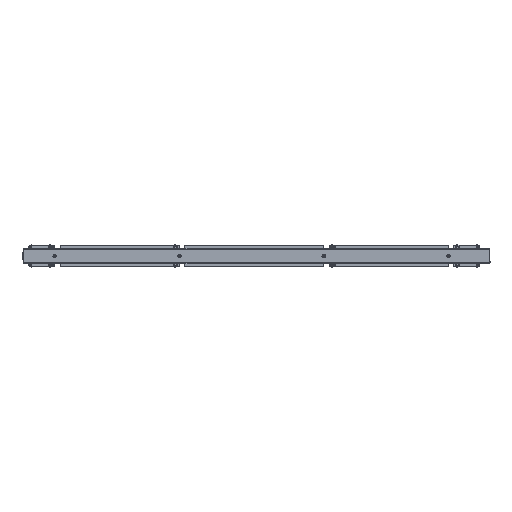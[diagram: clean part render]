
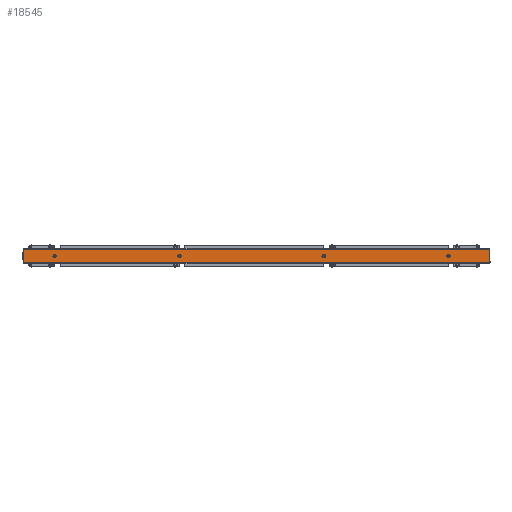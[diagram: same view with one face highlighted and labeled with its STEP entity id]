
A CAD part, left-side view. The second image highlights one B-rep face of the part: STEP entity #18545.
In plain terms, the highlighted planar face has unit normal (-1, 0, 0) as drawn and (0, 0, 1) by its records, which use the part's own axes.
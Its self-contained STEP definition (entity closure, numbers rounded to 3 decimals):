
#87 = LINE ( 'NONE', #17951, #3346 ) ;
#232 = CARTESIAN_POINT ( 'NONE',  ( 0., 56., 1.5 ) ) ;
#322 = CARTESIAN_POINT ( 'NONE',  ( 162.25, 28., 1.5 ) ) ;
#325 = DIRECTION ( 'NONE',  ( 0., 0., -1. ) ) ;
#428 = FACE_BOUND ( 'NONE', #18055, .T. ) ;
#432 = ORIENTED_EDGE ( 'NONE', *, *, #4720, .T. ) ;
#525 = FACE_OUTER_BOUND ( 'NONE', #2618, .T. ) ;
#588 = AXIS2_PLACEMENT_3D ( 'NONE', #11102, #1818, #12469 ) ;
#617 = CARTESIAN_POINT ( 'NONE',  ( 1658., 28., 1.5 ) ) ;
#919 = CARTESIAN_POINT ( 'NONE',  ( 0., 2.5, 1.5 ) ) ;
#1145 = CIRCLE ( 'NONE', #15807, 4.25 ) ;
#1233 = LINE ( 'NONE', #1436, #14915 ) ;
#1436 = CARTESIAN_POINT ( 'NONE',  ( 2.5, 56., 1.5 ) ) ;
#1818 = DIRECTION ( 'NONE',  ( 0., 0., 1. ) ) ;
#1917 = VERTEX_POINT ( 'NONE', #19110 ) ;
#2043 = CARTESIAN_POINT ( 'NONE',  ( 1653.75, 28., 1.5 ) ) ;
#2045 = DIRECTION ( 'NONE',  ( 1., 0., 0. ) ) ;
#2063 = ORIENTED_EDGE ( 'NONE', *, *, #18873, .F. ) ;
#2240 = ORIENTED_EDGE ( 'NONE', *, *, #7287, .T. ) ;
#2241 = DIRECTION ( 'NONE',  ( 0., 1., 0. ) ) ;
#2253 = EDGE_CURVE ( 'NONE', #5928, #12168, #16884, .T. ) ;
#2398 = LINE ( 'NONE', #919, #8243 ) ;
#2499 = CARTESIAN_POINT ( 'NONE',  ( 1183., 28., 1.5 ) ) ;
#2618 = EDGE_LOOP ( 'NONE', ( #432, #5036, #2240, #14565 ) ) ;
#2638 = CARTESIAN_POINT ( 'NONE',  ( 633., 28., 1.5 ) ) ;
#2997 = DIRECTION ( 'NONE',  ( 0., -1., 0. ) ) ;
#3346 = VECTOR ( 'NONE', #2241, 1000. ) ;
#3527 = AXIS2_PLACEMENT_3D ( 'NONE', #18528, #9593, #6533 ) ;
#3631 = VERTEX_POINT ( 'NONE', #322 ) ;
#3716 = CIRCLE ( 'NONE', #588, 4.25 ) ;
#4235 = AXIS2_PLACEMENT_3D ( 'NONE', #4876, #9933, #14420 ) ;
#4309 = CARTESIAN_POINT ( 'NONE',  ( 1178.75, 28., 1.5 ) ) ;
#4508 = DIRECTION ( 'NONE',  ( 1., 0., 0. ) ) ;
#4720 = EDGE_CURVE ( 'NONE', #17413, #10928, #2398, .T. ) ;
#4755 = AXIS2_PLACEMENT_3D ( 'NONE', #6624, #13882, #2045 ) ;
#4855 = ORIENTED_EDGE ( 'NONE', *, *, #10963, .F. ) ;
#4876 = CARTESIAN_POINT ( 'NONE',  ( 1183., 28., 1.5 ) ) ;
#5036 = ORIENTED_EDGE ( 'NONE', *, *, #11182, .T. ) ;
#5095 = CARTESIAN_POINT ( 'NONE',  ( 1775.5, 2.5, 1.5 ) ) ;
#5512 = CARTESIAN_POINT ( 'NONE',  ( 2.5, 53.5, 1.5 ) ) ;
#5530 = DIRECTION ( 'NONE',  ( 0., 0., 1. ) ) ;
#5539 = CARTESIAN_POINT ( 'NONE',  ( 1662.25, 28., 1.5 ) ) ;
#5629 = VERTEX_POINT ( 'NONE', #2043 ) ;
#5774 = AXIS2_PLACEMENT_3D ( 'NONE', #617, #16820, #12559 ) ;
#5786 = DIRECTION ( 'NONE',  ( -1., 0., 0. ) ) ;
#5928 = VERTEX_POINT ( 'NONE', #17154 ) ;
#6024 = EDGE_LOOP ( 'NONE', ( #4855, #9454 ) ) ;
#6345 = CARTESIAN_POINT ( 'NONE',  ( 158., 28., 1.5 ) ) ;
#6533 = DIRECTION ( 'NONE',  ( 1., 0., 0. ) ) ;
#6624 = CARTESIAN_POINT ( 'NONE',  ( 633., 28., 1.5 ) ) ;
#6948 = EDGE_CURVE ( 'NONE', #7650, #5629, #10158, .T. ) ;
#7037 = ORIENTED_EDGE ( 'NONE', *, *, #18562, .F. ) ;
#7096 = CARTESIAN_POINT ( 'NONE',  ( 153.75, 28., 1.5 ) ) ;
#7109 = VERTEX_POINT ( 'NONE', #5512 ) ;
#7154 = CIRCLE ( 'NONE', #3527, 4.25 ) ;
#7287 = EDGE_CURVE ( 'NONE', #1917, #7109, #13242, .T. ) ;
#7650 = VERTEX_POINT ( 'NONE', #5539 ) ;
#7676 = VERTEX_POINT ( 'NONE', #7096 ) ;
#7679 = CIRCLE ( 'NONE', #13005, 4.25 ) ;
#7691 = FACE_BOUND ( 'NONE', #14200, .T. ) ;
#7997 = CIRCLE ( 'NONE', #4235, 4.25 ) ;
#8071 = FACE_BOUND ( 'NONE', #6024, .T. ) ;
#8243 = VECTOR ( 'NONE', #8386, 1000. ) ;
#8386 = DIRECTION ( 'NONE',  ( 1., 0., 0. ) ) ;
#8693 = ORIENTED_EDGE ( 'NONE', *, *, #9833, .F. ) ;
#8856 = ORIENTED_EDGE ( 'NONE', *, *, #9615, .F. ) ;
#9043 = AXIS2_PLACEMENT_3D ( 'NONE', #232, #325, #9451 ) ;
#9303 = DIRECTION ( 'NONE',  ( 0., 0., 1. ) ) ;
#9451 = DIRECTION ( 'NONE',  ( -1., 0., 0. ) ) ;
#9454 = ORIENTED_EDGE ( 'NONE', *, *, #2253, .F. ) ;
#9593 = DIRECTION ( 'NONE',  ( 0., 0., 1. ) ) ;
#9615 = EDGE_CURVE ( 'NONE', #14129, #12404, #7679, .T. ) ;
#9833 = EDGE_CURVE ( 'NONE', #12404, #14129, #7997, .T. ) ;
#9933 = DIRECTION ( 'NONE',  ( 0., 0., 1. ) ) ;
#10008 = CARTESIAN_POINT ( 'NONE',  ( 1187.25, 28., 1.5 ) ) ;
#10158 = CIRCLE ( 'NONE', #5774, 4.25 ) ;
#10176 = CARTESIAN_POINT ( 'NONE',  ( 2.5, 2.5, 1.5 ) ) ;
#10373 = DIRECTION ( 'NONE',  ( 0., 0., 1. ) ) ;
#10928 = VERTEX_POINT ( 'NONE', #5095 ) ;
#10963 = EDGE_CURVE ( 'NONE', #12168, #5928, #1145, .T. ) ;
#11102 = CARTESIAN_POINT ( 'NONE',  ( 158., 28., 1.5 ) ) ;
#11114 = EDGE_CURVE ( 'NONE', #7676, #3631, #13964, .T. ) ;
#11182 = EDGE_CURVE ( 'NONE', #10928, #1917, #87, .T. ) ;
#11499 = DIRECTION ( 'NONE',  ( 1., 0., 0. ) ) ;
#12168 = VERTEX_POINT ( 'NONE', #16121 ) ;
#12404 = VERTEX_POINT ( 'NONE', #10008 ) ;
#12469 = DIRECTION ( 'NONE',  ( 1., 0., 0. ) ) ;
#12559 = DIRECTION ( 'NONE',  ( 1., 0., 0. ) ) ;
#13005 = AXIS2_PLACEMENT_3D ( 'NONE', #2499, #5530, #11499 ) ;
#13242 = LINE ( 'NONE', #19133, #18240 ) ;
#13512 = DIRECTION ( 'NONE',  ( 1., 0., 0. ) ) ;
#13882 = DIRECTION ( 'NONE',  ( 0., 0., 1. ) ) ;
#13964 = CIRCLE ( 'NONE', #17355, 4.25 ) ;
#14129 = VERTEX_POINT ( 'NONE', #4309 ) ;
#14200 = EDGE_LOOP ( 'NONE', ( #15971, #2063 ) ) ;
#14274 = ORIENTED_EDGE ( 'NONE', *, *, #11114, .F. ) ;
#14420 = DIRECTION ( 'NONE',  ( 1., 0., 0. ) ) ;
#14537 = EDGE_LOOP ( 'NONE', ( #8693, #8856 ) ) ;
#14565 = ORIENTED_EDGE ( 'NONE', *, *, #16545, .T. ) ;
#14915 = VECTOR ( 'NONE', #2997, 1000. ) ;
#15199 = PLANE ( 'NONE',  #9043 ) ;
#15807 = AXIS2_PLACEMENT_3D ( 'NONE', #2638, #10373, #4508 ) ;
#15971 = ORIENTED_EDGE ( 'NONE', *, *, #6948, .F. ) ;
#16121 = CARTESIAN_POINT ( 'NONE',  ( 637.25, 28., 1.5 ) ) ;
#16545 = EDGE_CURVE ( 'NONE', #7109, #17413, #1233, .T. ) ;
#16820 = DIRECTION ( 'NONE',  ( 0., 0., 1. ) ) ;
#16884 = CIRCLE ( 'NONE', #4755, 4.25 ) ;
#17154 = CARTESIAN_POINT ( 'NONE',  ( 628.75, 28., 1.5 ) ) ;
#17355 = AXIS2_PLACEMENT_3D ( 'NONE', #6345, #9303, #13512 ) ;
#17413 = VERTEX_POINT ( 'NONE', #10176 ) ;
#17951 = CARTESIAN_POINT ( 'NONE',  ( 1775.5, 0., 1.5 ) ) ;
#18055 = EDGE_LOOP ( 'NONE', ( #7037, #14274 ) ) ;
#18195 = FACE_BOUND ( 'NONE', #14537, .T. ) ;
#18240 = VECTOR ( 'NONE', #5786, 1000. ) ;
#18528 = CARTESIAN_POINT ( 'NONE',  ( 1658., 28., 1.5 ) ) ;
#18545 = ADVANCED_FACE ( 'NONE', ( #7691, #18195, #8071, #428, #525 ), #15199, .F. ) ;
#18562 = EDGE_CURVE ( 'NONE', #3631, #7676, #3716, .T. ) ;
#18873 = EDGE_CURVE ( 'NONE', #5629, #7650, #7154, .T. ) ;
#19110 = CARTESIAN_POINT ( 'NONE',  ( 1775.5, 53.5, 1.5 ) ) ;
#19133 = CARTESIAN_POINT ( 'NONE',  ( 10668., 53.5, 1.5 ) ) ;
